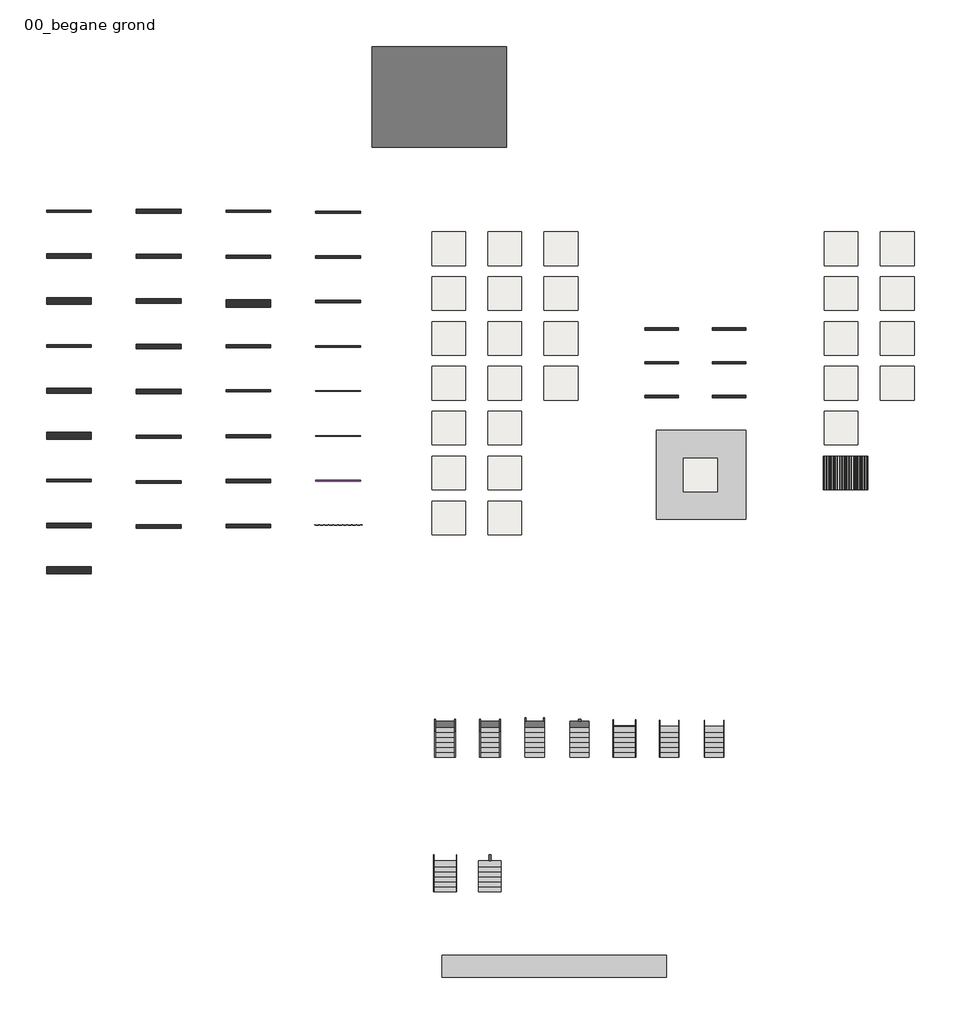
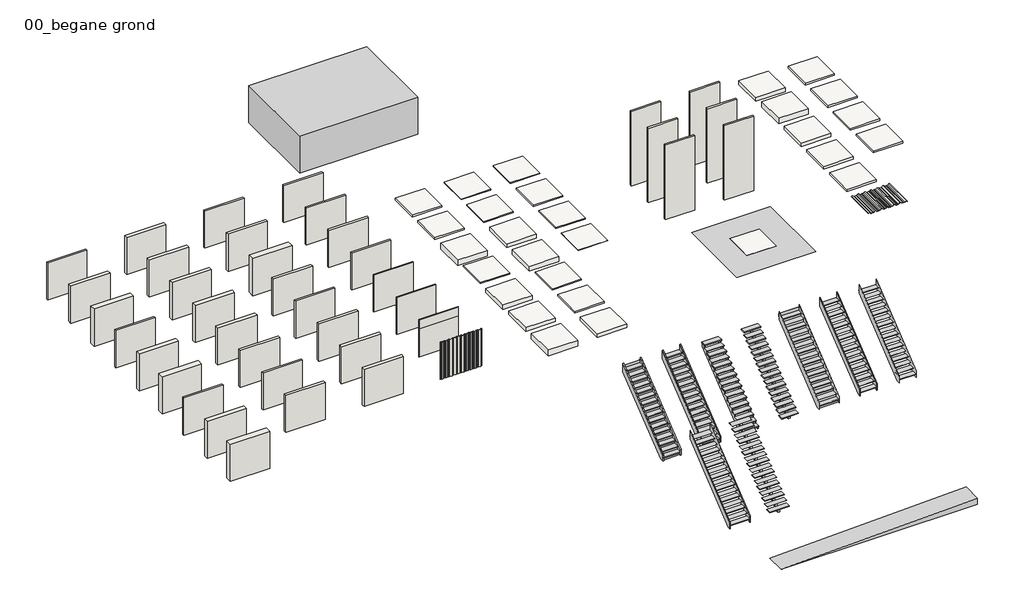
# One storey, incomplete: 40 walls, 19 slabs, 18 stairs, 10 roofs, 2 proxies, 1 ramp.
"""IFC4 building model written with IfcOpenShell, lengths in millimetres."""

from ifc_helpers import new_model, si_unit, frame, origin, origin_with_axes, place, context, project, spatial, polyline, outline, extrude, triangles, transform, mapped, element, save
from components import proxy_00_mass_bestaand_00_mass_bestaand_229168_00_mass_12fab161, ramp_c5d2febd, roof_46c57be1, roof_4d8e4188, roof_0605da9c, roof_7d214786, roof_24a27b46, roof_65e7706b, roof_e8020cba, roof_e9c2aae1, basic_roof_27_ro_generiek_200_69710_basic_roof_27_ro_0ecb0dcb, basic_roof_27_ro_generiek_300_69826_basic_roof_27_ro_fdb68229, assembled_stair_stair_68679_run_1_assembled_stair_stair_a77dc0a1, assembled_stair_stair_68679_stringer_1_assembled_stair_stair_632ac695, assembled_stair_stair_68953_run_1_assembled_stair_stair_38e74e66, assembled_stair_stair_68953_stringer_1_assembled_stair_stair_a13841a0, assembled_stair_stair_69257_run_1_assembled_stair_stair_86e8642f, assembled_stair_stair_69257_stringer_1_assembled_stair_stair_c2634700, assembled_stair_stair_69261_run_1_assembled_stair_stair_f02f855f, assembled_stair_stair_69261_stringer_1_assembled_stair_stair_a59cbee6, assembled_stair_stair_69280_run_1_assembled_stair_stair_6d8b1960, assembled_stair_stair_69280_stringer_1_assembled_stair_stair_a96893dd, assembled_stair_stair_69283_run_1_assembled_stair_stair_51359e1c, assembled_stair_stair_69283_stringer_1_assembled_stair_stair_75dc44a6, assembled_stair_stair_69288_run_1_assembled_stair_stair_d5ccb160, assembled_stair_stair_69288_stringer_1_assembled_stair_stair_aace1262, assembled_stair_stair_69305_run_1_assembled_stair_stair_07b85a14, assembled_stair_stair_69305_stringer_1_assembled_stair_stair_98d96019, assembled_stair_stair_69309_run_1_assembled_stair_stair_6317ac3c, assembled_stair_stair_69309_stringer_1_assembled_stair_stair_9f351917, wall_cce2b666

model = new_model("IFC4")

# Units and contexts
model_context = context("Model", 3, world=origin())
ifc_project = project(units=[si_unit("LENGTHUNIT", "METRE", prefix="MILLI")], contexts=[model_context])

# Site, building, storey
site = spatial("IfcSite", under=ifc_project)
building = spatial("IfcBuilding", under=site)
storey = spatial("IfcBuildingStorey", under=building, Name="00_begane grond", Elevation=0.0)

# Proxies
placement = place(None, origin())
element("IfcBuildingElementProxy", 1, Name="Building Element Proxy", at=placement, inside=storey, context=model_context, shape_type="Tessellation", body=[
    triangles([(27193.3471252, -14734.9994293, 0.0), (27193.3471252, -10755.0005035, 0.0), (31193.3471558, -10755.0005035, 0.0), (31193.3471558, -14734.9994293, 0.0), (28413.3470764, -13494.9995361, 0.0), (29913.3485413, -13494.9995361, 0.0), (29913.3485413, -13461.4004242, 0.0), (29913.3485413, -11995.0003967, 0.0), (28439.5780334, -11995.0003967, 0.0), (28413.3470764, -11995.0003967, 0.0)], [[1, 5, 2], [5, 1, 6], [2, 10, 9], [10, 2, 5], [9, 10, 5], [2, 9, 8], [5, 7, 9], [6, 4, 7], [4, 6, 1], [7, 3, 8], [3, 7, 4], [8, 3, 2], [7, 8, 9], [6, 7, 5]], closed=False),
])
proxy_00_mass_bestaand_00_mass_bestaand_229168_00_mass_shape = proxy_00_mass_bestaand_00_mass_bestaand_229168_00_mass_12fab161(model_context)
element("IfcBuildingElementProxy", 2, Name="00_Mass_bestaand:00_Mass_bestaand:229168 : 00_Mass_bestaand:00_Mass_bestaand:229168", ObjectType="00_Mass_bestaand:00_Mass_bestaand:229168 : 00_Mass_bestaand:00_Mass_bestaand:229168", at=placement, inside=storey, context=model_context, shape_type="MappedRepresentation", body=[
    mapped(proxy_00_mass_bestaand_00_mass_bestaand_229168_00_mass_shape, transform((0.0, 0.0, 0.0), x_axis=(1.0, 0.0, 0.0), y_axis=(0.0, 1.0, 0.0), z_axis=(0.0, 0.0, 1.0))),
])

# Ramp
ramp_shape = ramp_c5d2febd(model_context)
element("IfcRamp", 3, ObjectType="Ramp:24_RA_hellingbaan_beton_prefab_solid:79050:1 : Ramp:24_RA_hellingbaan_beton_prefab_solid:79050:1", at=placement, inside=storey, context=model_context, shape_type="MappedRepresentation", body=[
    mapped(ramp_shape, transform((0.0, 0.0, 0.0), x_axis=(1.0, 0.0, 0.0), y_axis=(0.0, 1.0, 0.0), z_axis=(0.0, 0.0, 1.0))),
])

# Roofs
roof_shape = roof_46c57be1(model_context)
element("IfcRoof", 4, ObjectType="Basic Roof:47_RO_isolatie_PIR_bitumen_82_80-2:69885 : Basic Roof:47_RO_isolatie_PIR_bitumen_82_80-2:69885", at=placement, inside=storey, context=model_context, shape_type="MappedRepresentation", body=[
    mapped(roof_shape, transform((0.0, 0.0, 0.0), x_axis=(1.0, 0.0, 0.0), y_axis=(0.0, 1.0, 0.0), z_axis=(0.0, 0.0, 1.0))),
])
roof_2_shape = roof_4d8e4188(model_context)
element("IfcRoof", 5, ObjectType="Basic Roof:47_RO_isolatie_EPS_bitumen_102_100-2:69892 : Basic Roof:47_RO_isolatie_EPS_bitumen_102_100-2:69892", at=placement, inside=storey, context=model_context, shape_type="MappedRepresentation", body=[
    mapped(roof_2_shape, transform((0.0, 0.0, 0.0), x_axis=(1.0, 0.0, 0.0), y_axis=(0.0, 1.0, 0.0), z_axis=(0.0, 0.0, 1.0))),
])
roof_3_shape = roof_0605da9c(model_context)
element("IfcRoof", 6, ObjectType="Basic Roof:27_RO_hout_underlayment_189_171-18:69921 : Basic Roof:27_RO_hout_underlayment_189_171-18:69921", at=placement, inside=storey, context=model_context, shape_type="MappedRepresentation", body=[
    mapped(roof_3_shape, transform((0.0, 0.0, 0.0), x_axis=(1.0, 0.0, 0.0), y_axis=(0.0, 1.0, 0.0), z_axis=(0.0, 0.0, 1.0))),
])
roof_4_shape = roof_7d214786(model_context)
element("IfcRoof", 7, ObjectType="Basic Roof:27_RO_dakplaat_enkelschalig_PIR_135_33-90-12:69928 : Basic Roof:27_RO_dakplaat_enkelschalig_PIR_135_33-90-12:69928", at=placement, inside=storey, context=model_context, shape_type="MappedRepresentation", body=[
    mapped(roof_4_shape, transform((0.0, 0.0, 0.0), x_axis=(1.0, 0.0, 0.0), y_axis=(0.0, 1.0, 0.0), z_axis=(0.0, 0.0, 1.0))),
])
roof_5_shape = roof_24a27b46(model_context)
element("IfcRoof", 8, ObjectType="Basic Roof:47_RO_dakpan_grijs_300x300:69939 : Basic Roof:47_RO_dakpan_grijs_300x300:69939", at=placement, inside=storey, context=model_context, shape_type="MappedRepresentation", body=[
    mapped(roof_5_shape, transform((0.0, 0.0, 0.0), x_axis=(1.0, 0.0, 0.0), y_axis=(0.0, 1.0, 0.0), z_axis=(0.0, 0.0, 1.0))),
])
roof_6_shape = roof_65e7706b(model_context)
element("IfcRoof", 9, ObjectType="Basic Roof:47_RO_dakpan_rood_300x300:69946 : Basic Roof:47_RO_dakpan_rood_300x300:69946", at=placement, inside=storey, context=model_context, shape_type="MappedRepresentation", body=[
    mapped(roof_6_shape, transform((0.0, 0.0, 0.0), x_axis=(1.0, 0.0, 0.0), y_axis=(0.0, 1.0, 0.0), z_axis=(0.0, 0.0, 1.0))),
])
roof_7_shape = roof_e8020cba(model_context)
element("IfcRoof", 10, ObjectType="Basic Roof:27_RO_dakplaat_sandwich_PIR_106_20-3-80-3:77055 : Basic Roof:27_RO_dakplaat_sandwich_PIR_106_20-3-80-3:77055", at=placement, inside=storey, context=model_context, shape_type="MappedRepresentation", body=[
    mapped(roof_7_shape, transform((0.0, 0.0, 0.0), x_axis=(1.0, 0.0, 0.0), y_axis=(0.0, 1.0, 0.0), z_axis=(0.0, 0.0, 1.0))),
])
roof_8_shape = roof_e9c2aae1(model_context)
element("IfcRoof", 11, ObjectType="27_CWP_SAB58KD_945:SAB58KD_945:165322 : 27_CWP_SAB58KD_945:SAB58KD_945:165322", at=placement, inside=storey, context=model_context, shape_type="MappedRepresentation", body=[
    mapped(roof_8_shape, transform((0.0, 0.0, 0.0), x_axis=(1.0, 0.0, 0.0), y_axis=(0.0, 1.0, 0.0), z_axis=(0.0, 0.0, 1.0))),
])
basic_roof_27_ro_generiek_200_69710_basic_roof_27_ro_shape = basic_roof_27_ro_generiek_200_69710_basic_roof_27_ro_0ecb0dcb(model_context)
element("IfcRoof", 12, ObjectType="Basic Roof:27_RO_generiek_200:69710 : Basic Roof:27_RO_generiek_200:69710", at=placement, inside=storey, context=model_context, shape_type="MappedRepresentation", body=[
    mapped(basic_roof_27_ro_generiek_200_69710_basic_roof_27_ro_shape, transform((0.0, 0.0, 0.0), x_axis=(1.0, 0.0, 0.0), y_axis=(0.0, 1.0, 0.0), z_axis=(0.0, 0.0, 1.0))),
])
basic_roof_27_ro_generiek_300_69826_basic_roof_27_ro_shape = basic_roof_27_ro_generiek_300_69826_basic_roof_27_ro_fdb68229(model_context)
element("IfcRoof", 13, ObjectType="Basic Roof:27_RO_generiek_300:69826 : Basic Roof:27_RO_generiek_300:69826", at=placement, inside=storey, context=model_context, shape_type="MappedRepresentation", body=[
    mapped(basic_roof_27_ro_generiek_300_69826_basic_roof_27_ro_shape, transform((0.0, 0.0, 0.0), x_axis=(1.0, 0.0, 0.0), y_axis=(0.0, 1.0, 0.0), z_axis=(0.0, 0.0, 1.0))),
])

# Slabs
element("IfcSlab", 14, ObjectType="Floor:11_FL_werkvloer_stampbeton_50", at=placement, inside=storey, context=model_context, shape_type="SweptSolid", body=[
    extrude(outline(polyline([(17193.347385, -7915.0), (18693.347385, -7915.0), (18693.347385, -9415.0), (17193.347385, -9415.0), (17193.347385, -7915.0)])), frame((0.0, 0.0, -50.0), z_axis=(0.0, 0.0, 1.0), x_axis=(1.0, 0.0, 0.0)), (0.0, 0.0, 1.0), 50.0),
])
element("IfcSlab", 15, ObjectType="Floor:13_FL_ihwg_beton_geïsoleerd_222_120-100-2", at=placement, inside=storey, context=model_context, shape_type="SweptSolid", body=[
    extrude(outline(polyline([(17193.347385, -9915.0), (18693.347385, -9915.0), (18693.347385, -11415.0), (17193.347385, -11415.0), (17193.347385, -9915.0)])), frame((0.0, 0.0, -222.0), z_axis=(0.0, 0.0, 1.0), x_axis=(1.0, 0.0, 0.0)), (0.0, 0.0, 1.0), 222.0),
])
element("IfcSlab", 16, ObjectType="Floor:23_FL_breedplaat_50", at=placement, inside=storey, context=model_context, shape_type="SweptSolid", body=[
    extrude(outline(polyline([(19693.347385, -1915.0), (21193.347385, -1915.0), (21193.347385, -3415.0), (19693.347385, -3415.0), (19693.347385, -1915.0)])), frame((0.0, 0.0, -50.0), z_axis=(0.0, 0.0, 1.0), x_axis=(1.0, 0.0, 0.0)), (0.0, 0.0, 1.0), 50.0),
])
element("IfcSlab", 17, ObjectType="Floor:23_FL_breedplaat_60", at=placement, inside=storey, context=model_context, shape_type="SweptSolid", body=[
    extrude(outline(polyline([(19693.347385, -3915.0), (21193.347385, -3915.0), (21193.347385, -5415.0), (19693.347385, -5415.0), (19693.347385, -3915.0)])), frame((0.0, 0.0, -60.0), z_axis=(0.0, 0.0, 1.0), x_axis=(1.0, 0.0, 0.0)), (0.0, 0.0, 1.0), 60.0),
])
element("IfcSlab", 18, ObjectType="Floor:23_FL_zwaluwstaartvloer_ihwg_beton_50", at=placement, inside=storey, context=model_context, shape_type="SweptSolid", body=[
    extrude(outline(polyline([(19693.347385, -9915.0), (21193.347385, -9915.0), (21193.347385, -11415.0), (19693.347385, -11415.0), (19693.347385, -9915.0)])), frame((0.0, 0.0, -50.0), z_axis=(0.0, 0.0, 1.0), x_axis=(1.0, 0.0, 0.0)), (0.0, 0.0, 1.0), 50.0),
])
element("IfcSlab", 19, ObjectType="Floor:23_FL_zwaluwstaartvloer_ihwg_beton_75", at=placement, inside=storey, context=model_context, shape_type="SweptSolid", body=[
    extrude(outline(polyline([(19693.347385, -11915.0), (21193.347385, -11915.0), (21193.347385, -13415.0), (19693.347385, -13415.0), (19693.347385, -11915.0)])), frame((0.0, 0.0, -75.0), z_axis=(0.0, 0.0, 1.0), x_axis=(1.0, 0.0, 0.0)), (0.0, 0.0, 1.0), 75.0),
])
element("IfcSlab", 20, ObjectType="Floor:43_FL_cementdekvloer_50", at=placement, inside=storey, context=model_context, shape_type="SweptSolid", body=[
    extrude(outline(polyline([(22193.347385, -1915.0), (23693.347385, -1915.0), (23693.347385, -3415.0), (22193.347385, -3415.0), (22193.347385, -1915.0)])), frame((0.0, 0.0, -50.0), z_axis=(0.0, 0.0, 1.0), x_axis=(1.0, 0.0, 0.0)), (0.0, 0.0, 1.0), 50.0),
])
element("IfcSlab", 21, ObjectType="Floor:43_FL_cementdekvloer_70", at=placement, inside=storey, context=model_context, shape_type="SweptSolid", body=[
    extrude(outline(polyline([(22193.347385, -3915.0), (23693.347385, -3915.0), (23693.347385, -5415.0), (22193.347385, -5415.0), (22193.347385, -3915.0)])), frame((0.0, 0.0, -70.0), z_axis=(0.0, 0.0, 1.0), x_axis=(1.0, 0.0, 0.0)), (0.0, 0.0, 1.0), 70.0),
])
element("IfcSlab", 22, ObjectType="Floor:43_FL_eiken_planken 150_geluidsisolatie_52_22-30", at=placement, inside=storey, context=model_context, shape_type="SweptSolid", body=[
    extrude(outline(polyline([(22193.347385, -5915.0), (23693.347385, -5915.0), (23693.347385, -7415.0), (22193.347385, -7415.0), (22193.347385, -5915.0)])), frame((0.0, 0.0, -52.0), z_axis=(0.0, 0.0, 1.0), x_axis=(1.0, 0.0, 0.0)), (0.0, 0.0, 1.0), 52.0),
])
element("IfcSlab", 23, ObjectType="Floor:43_FL_tapijt_rood", at=placement, inside=storey, context=model_context, shape_type="SweptSolid", body=[
    extrude(outline(polyline([(22193.347385, -7915.0), (23693.347385, -7915.0), (23693.347385, -9415.0), (22193.347385, -9415.0), (22193.347385, -7915.0)])), frame((0.0, 0.0, -9.0), z_axis=(0.0, 0.0, 1.0), x_axis=(1.0, 0.0, 0.0)), (0.0, 0.0, 1.0), 9.0),
])
element("IfcSlab", 24, ObjectType="Floor:13_FL_generiek_100", at=placement, inside=storey, context=model_context, shape_type="SweptSolid", body=[
    extrude(outline(polyline([(17193.347385, -1915.0), (18693.347385, -1915.0), (18693.347385, -3415.0), (17193.347385, -3415.0), (17193.347385, -1915.0)])), frame((0.0, 0.0, -100.0), z_axis=(0.0, 0.0, 1.0), x_axis=(1.0, 0.0, 0.0)), (0.0, 0.0, 1.0), 100.0),
])
element("IfcSlab", 25, ObjectType="Floor:23_FL_generiek_100", at=placement, inside=storey, context=model_context, shape_type="SweptSolid", body=[
    extrude(outline(polyline([(17193.347385, -3915.0), (18693.347385, -3915.0), (18693.347385, -5415.0), (17193.347385, -5415.0), (17193.347385, -3915.0)])), frame((0.0, 0.0, -100.0), z_axis=(0.0, 0.0, 1.0), x_axis=(1.0, 0.0, 0.0)), (0.0, 0.0, 1.0), 100.0),
])
element("IfcSlab", 26, ObjectType="Floor:23_FL_generiek_300", at=placement, inside=storey, context=model_context, shape_type="SweptSolid", body=[
    extrude(outline(polyline([(17193.347385, -5915.0), (18693.347385, -5915.0), (18693.347385, -7415.0), (17193.347385, -7415.0), (17193.347385, -5915.0)])), frame((0.0, 0.0, -300.0), z_axis=(0.0, 0.0, 1.0), x_axis=(1.0, 0.0, 0.0)), (0.0, 0.0, 1.0), 300.0),
])
element("IfcSlab", 27, ObjectType="Floor:23_FL_hout_underlayment_189mm_171-18", at=placement, inside=storey, context=model_context, shape_type="SweptSolid", body=[
    extrude(outline(polyline([(19693.347385, -13915.0), (21193.347385, -13915.0), (21193.347385, -15415.0), (19693.347385, -15415.0), (19693.347385, -13915.0)])), frame((0.0, 0.0, -189.0), z_axis=(0.0, 0.0, 1.0), x_axis=(1.0, 0.0, 0.0)), (0.0, 0.0, 1.0), 189.0),
])
element("IfcSlab", 28, ObjectType="Floor:23_FL_ihwg_beton_200", at=placement, inside=storey, context=model_context, shape_type="SweptSolid", body=[
    extrude(outline(polyline([(17193.347385, -11915.0), (18693.347385, -11915.0), (18693.347385, -13415.0), (17193.347385, -13415.0), (17193.347385, -11915.0)])), frame((0.0, 0.0, -200.0), z_axis=(0.0, 0.0, 1.0), x_axis=(1.0, 0.0, 0.0)), (0.0, 0.0, 1.0), 200.0),
])
element("IfcSlab", 29, ObjectType="Floor:23_FL_ihwg_beton_300", at=placement, inside=storey, context=model_context, shape_type="SweptSolid", body=[
    extrude(outline(polyline([(17193.347385, -13915.0), (18693.347385, -13915.0), (18693.347385, -15415.0), (17193.347385, -15415.0), (17193.347385, -13915.0)])), frame((0.0, 0.0, -300.0), z_axis=(0.0, 0.0, 1.0), x_axis=(1.0, 0.0, 0.0)), (0.0, 0.0, 1.0), 300.0),
])
element("IfcSlab", 30, ObjectType="Floor:23_FL_kanaalplaat_200", at=placement, inside=storey, context=model_context, shape_type="SweptSolid", body=[
    extrude(outline(polyline([(19693.347385, -5915.0), (21193.347385, -5915.0), (21193.347385, -7415.0), (19693.347385, -7415.0), (19693.347385, -5915.0)])), frame((0.0, 0.0, -200.0), z_axis=(0.0, 0.0, 1.0), x_axis=(1.0, 0.0, 0.0)), (0.0, 0.0, 1.0), 200.0),
])
element("IfcSlab", 31, ObjectType="Floor:23_FL_kanaalplaat_260", at=placement, inside=storey, context=model_context, shape_type="SweptSolid", body=[
    extrude(outline(polyline([(19693.347385, -7915.0), (21193.347385, -7915.0), (21193.347385, -9415.0), (19693.347385, -9415.0), (19693.347385, -7915.0)])), frame((0.0, 0.0, -260.0), z_axis=(0.0, 0.0, 1.0), x_axis=(1.0, 0.0, 0.0)), (0.0, 0.0, 1.0), 260.0),
])
element("IfcSlab", 32, ObjectType="Pad:90_SITE_bouwplaats", at=placement, inside=storey, context=model_context, shape_type="SweptSolid", body=[
    extrude(outline(polyline([(28413.347385, -13495.0), (28413.347385, -11995.0), (29913.347385, -11995.0), (29913.347385, -13495.0), (28413.347385, -13495.0)])), frame((0.0, 0.0, -300.0), z_axis=(0.0, 0.0, 1.0), x_axis=(1.0, 0.0, 0.0)), (0.0, 0.0, 1.0), 300.0),
])

# Stairs
assembled_stair_stair_68679_run_1_assembled_stair_stair_shape = assembled_stair_stair_68679_run_1_assembled_stair_stair_a77dc0a1(model_context)
element("IfcStair", 33, ObjectType="Assembled Stair:Stair:68679 Run 1 : Assembled Stair:Stair:68679 Run 1", at=placement, inside=storey, context=model_context, shape_type="MappedRepresentation", body=[
    mapped(assembled_stair_stair_68679_run_1_assembled_stair_stair_shape, transform((0.0, 0.0, 0.0), x_axis=(1.0, 0.0, 0.0), y_axis=(0.0, 1.0, 0.0), z_axis=(0.0, 0.0, 1.0))),
])
assembled_stair_stair_68679_stringer_1_assembled_stair_stair_shape = assembled_stair_stair_68679_stringer_1_assembled_stair_stair_632ac695(model_context)
element("IfcStair", 34, ObjectType="Assembled Stair:Stair:68679 Stringer 1 : Assembled Stair:Stair:68679 Stringer 1", at=placement, inside=storey, context=model_context, shape_type="MappedRepresentation", body=[
    mapped(assembled_stair_stair_68679_stringer_1_assembled_stair_stair_shape, transform((0.0, 0.0, 0.0), x_axis=(1.0, 0.0, 0.0), y_axis=(0.0, 1.0, 0.0), z_axis=(0.0, 0.0, 1.0))),
])
assembled_stair_stair_68953_run_1_assembled_stair_stair_shape = assembled_stair_stair_68953_run_1_assembled_stair_stair_38e74e66(model_context)
element("IfcStair", 35, ObjectType="Assembled Stair:Stair:68953 Run 1 : Assembled Stair:Stair:68953 Run 1", at=placement, inside=storey, context=model_context, shape_type="MappedRepresentation", body=[
    mapped(assembled_stair_stair_68953_run_1_assembled_stair_stair_shape, transform((0.0, 0.0, 0.0), x_axis=(1.0, 0.0, 0.0), y_axis=(0.0, 1.0, 0.0), z_axis=(0.0, 0.0, 1.0))),
])
assembled_stair_stair_68953_stringer_1_assembled_stair_stair_shape = assembled_stair_stair_68953_stringer_1_assembled_stair_stair_a13841a0(model_context)
element("IfcStair", 36, ObjectType="Assembled Stair:Stair:68953 Stringer 1 : Assembled Stair:Stair:68953 Stringer 1", at=placement, inside=storey, context=model_context, shape_type="MappedRepresentation", body=[
    mapped(assembled_stair_stair_68953_stringer_1_assembled_stair_stair_shape, transform((0.0, 0.0, 0.0), x_axis=(1.0, 0.0, 0.0), y_axis=(0.0, 1.0, 0.0), z_axis=(0.0, 0.0, 1.0))),
])
assembled_stair_stair_69257_run_1_assembled_stair_stair_shape = assembled_stair_stair_69257_run_1_assembled_stair_stair_86e8642f(model_context)
element("IfcStair", 37, ObjectType="Assembled Stair:Stair:69257 Run 1 : Assembled Stair:Stair:69257 Run 1", at=placement, inside=storey, context=model_context, shape_type="MappedRepresentation", body=[
    mapped(assembled_stair_stair_69257_run_1_assembled_stair_stair_shape, transform((0.0, 0.0, 0.0), x_axis=(1.0, 0.0, 0.0), y_axis=(0.0, 1.0, 0.0), z_axis=(0.0, 0.0, 1.0))),
])
assembled_stair_stair_69257_stringer_1_assembled_stair_stair_shape = assembled_stair_stair_69257_stringer_1_assembled_stair_stair_c2634700(model_context)
element("IfcStair", 38, ObjectType="Assembled Stair:Stair:69257 Stringer 1 : Assembled Stair:Stair:69257 Stringer 1", at=placement, inside=storey, context=model_context, shape_type="MappedRepresentation", body=[
    mapped(assembled_stair_stair_69257_stringer_1_assembled_stair_stair_shape, transform((0.0, 0.0, 0.0), x_axis=(1.0, 0.0, 0.0), y_axis=(0.0, 1.0, 0.0), z_axis=(0.0, 0.0, 1.0))),
])
assembled_stair_stair_69261_run_1_assembled_stair_stair_shape = assembled_stair_stair_69261_run_1_assembled_stair_stair_f02f855f(model_context)
element("IfcStair", 39, ObjectType="Assembled Stair:Stair:69261 Run 1 : Assembled Stair:Stair:69261 Run 1", at=placement, inside=storey, context=model_context, shape_type="MappedRepresentation", body=[
    mapped(assembled_stair_stair_69261_run_1_assembled_stair_stair_shape, transform((0.0, 0.0, 0.0), x_axis=(1.0, 0.0, 0.0), y_axis=(0.0, 1.0, 0.0), z_axis=(0.0, 0.0, 1.0))),
])
assembled_stair_stair_69261_stringer_1_assembled_stair_stair_shape = assembled_stair_stair_69261_stringer_1_assembled_stair_stair_a59cbee6(model_context)
element("IfcStair", 40, ObjectType="Assembled Stair:Stair:69261 Stringer 1 : Assembled Stair:Stair:69261 Stringer 1", at=placement, inside=storey, context=model_context, shape_type="MappedRepresentation", body=[
    mapped(assembled_stair_stair_69261_stringer_1_assembled_stair_stair_shape, transform((0.0, 0.0, 0.0), x_axis=(1.0, 0.0, 0.0), y_axis=(0.0, 1.0, 0.0), z_axis=(0.0, 0.0, 1.0))),
])
assembled_stair_stair_69280_run_1_assembled_stair_stair_shape = assembled_stair_stair_69280_run_1_assembled_stair_stair_6d8b1960(model_context)
element("IfcStair", 41, ObjectType="Assembled Stair:Stair:69280 Run 1 : Assembled Stair:Stair:69280 Run 1", at=placement, inside=storey, context=model_context, shape_type="MappedRepresentation", body=[
    mapped(assembled_stair_stair_69280_run_1_assembled_stair_stair_shape, transform((0.0, 0.0, 0.0), x_axis=(1.0, 0.0, 0.0), y_axis=(0.0, 1.0, 0.0), z_axis=(0.0, 0.0, 1.0))),
])
assembled_stair_stair_69280_stringer_1_assembled_stair_stair_shape = assembled_stair_stair_69280_stringer_1_assembled_stair_stair_a96893dd(model_context)
element("IfcStair", 42, ObjectType="Assembled Stair:Stair:69280 Stringer 1 : Assembled Stair:Stair:69280 Stringer 1", at=placement, inside=storey, context=model_context, shape_type="MappedRepresentation", body=[
    mapped(assembled_stair_stair_69280_stringer_1_assembled_stair_stair_shape, transform((0.0, 0.0, 0.0), x_axis=(1.0, 0.0, 0.0), y_axis=(0.0, 1.0, 0.0), z_axis=(0.0, 0.0, 1.0))),
])
assembled_stair_stair_69283_run_1_assembled_stair_stair_shape = assembled_stair_stair_69283_run_1_assembled_stair_stair_51359e1c(model_context)
element("IfcStair", 43, ObjectType="Assembled Stair:Stair:69283 Run 1 : Assembled Stair:Stair:69283 Run 1", at=placement, inside=storey, context=model_context, shape_type="MappedRepresentation", body=[
    mapped(assembled_stair_stair_69283_run_1_assembled_stair_stair_shape, transform((0.0, 0.0, 0.0), x_axis=(1.0, 0.0, 0.0), y_axis=(0.0, 1.0, 0.0), z_axis=(0.0, 0.0, 1.0))),
])
assembled_stair_stair_69283_stringer_1_assembled_stair_stair_shape = assembled_stair_stair_69283_stringer_1_assembled_stair_stair_75dc44a6(model_context)
element("IfcStair", 44, ObjectType="Assembled Stair:Stair:69283 Stringer 1 : Assembled Stair:Stair:69283 Stringer 1", at=placement, inside=storey, context=model_context, shape_type="MappedRepresentation", body=[
    mapped(assembled_stair_stair_69283_stringer_1_assembled_stair_stair_shape, transform((0.0, 0.0, 0.0), x_axis=(1.0, 0.0, 0.0), y_axis=(0.0, 1.0, 0.0), z_axis=(0.0, 0.0, 1.0))),
])
assembled_stair_stair_69288_run_1_assembled_stair_stair_shape = assembled_stair_stair_69288_run_1_assembled_stair_stair_d5ccb160(model_context)
element("IfcStair", 45, ObjectType="Assembled Stair:Stair:69288 Run 1 : Assembled Stair:Stair:69288 Run 1", at=placement, inside=storey, context=model_context, shape_type="MappedRepresentation", body=[
    mapped(assembled_stair_stair_69288_run_1_assembled_stair_stair_shape, transform((0.0, 0.0, 0.0), x_axis=(1.0, 0.0, 0.0), y_axis=(0.0, 1.0, 0.0), z_axis=(0.0, 0.0, 1.0))),
])
assembled_stair_stair_69288_stringer_1_assembled_stair_stair_shape = assembled_stair_stair_69288_stringer_1_assembled_stair_stair_aace1262(model_context)
element("IfcStair", 46, ObjectType="Assembled Stair:Stair:69288 Stringer 1 : Assembled Stair:Stair:69288 Stringer 1", at=placement, inside=storey, context=model_context, shape_type="MappedRepresentation", body=[
    mapped(assembled_stair_stair_69288_stringer_1_assembled_stair_stair_shape, transform((0.0, 0.0, 0.0), x_axis=(1.0, 0.0, 0.0), y_axis=(0.0, 1.0, 0.0), z_axis=(0.0, 0.0, 1.0))),
])
assembled_stair_stair_69305_run_1_assembled_stair_stair_shape = assembled_stair_stair_69305_run_1_assembled_stair_stair_07b85a14(model_context)
element("IfcStair", 47, ObjectType="Assembled Stair:Stair:69305 Run 1 : Assembled Stair:Stair:69305 Run 1", at=placement, inside=storey, context=model_context, shape_type="MappedRepresentation", body=[
    mapped(assembled_stair_stair_69305_run_1_assembled_stair_stair_shape, transform((0.0, 0.0, 0.0), x_axis=(1.0, 0.0, 0.0), y_axis=(0.0, 1.0, 0.0), z_axis=(0.0, 0.0, 1.0))),
])
assembled_stair_stair_69305_stringer_1_assembled_stair_stair_shape = assembled_stair_stair_69305_stringer_1_assembled_stair_stair_98d96019(model_context)
element("IfcStair", 48, ObjectType="Assembled Stair:Stair:69305 Stringer 1 : Assembled Stair:Stair:69305 Stringer 1", at=placement, inside=storey, context=model_context, shape_type="MappedRepresentation", body=[
    mapped(assembled_stair_stair_69305_stringer_1_assembled_stair_stair_shape, transform((0.0, 0.0, 0.0), x_axis=(1.0, 0.0, 0.0), y_axis=(0.0, 1.0, 0.0), z_axis=(0.0, 0.0, 1.0))),
])
assembled_stair_stair_69309_run_1_assembled_stair_stair_shape = assembled_stair_stair_69309_run_1_assembled_stair_stair_6317ac3c(model_context)
element("IfcStair", 49, ObjectType="Assembled Stair:Stair:69309 Run 1 : Assembled Stair:Stair:69309 Run 1", at=placement, inside=storey, context=model_context, shape_type="MappedRepresentation", body=[
    mapped(assembled_stair_stair_69309_run_1_assembled_stair_stair_shape, transform((0.0, 0.0, 0.0), x_axis=(1.0, 0.0, 0.0), y_axis=(0.0, 1.0, 0.0), z_axis=(0.0, 0.0, 1.0))),
])
assembled_stair_stair_69309_stringer_1_assembled_stair_stair_shape = assembled_stair_stair_69309_stringer_1_assembled_stair_stair_9f351917(model_context)
element("IfcStair", 50, ObjectType="Assembled Stair:Stair:69309 Stringer 1 : Assembled Stair:Stair:69309 Stringer 1", at=placement, inside=storey, context=model_context, shape_type="MappedRepresentation", body=[
    mapped(assembled_stair_stair_69309_stringer_1_assembled_stair_stair_shape, transform((0.0, 0.0, 0.0), x_axis=(1.0, 0.0, 0.0), y_axis=(0.0, 1.0, 0.0), z_axis=(0.0, 0.0, 1.0))),
])

# Walls
element("IfcWall", 51, ObjectType="Basic Wall:21_WA_mw_100", at=placement, inside=storey, context=model_context, shape_type="SweptSolid", body=[
    extrude(outline(polyline([(2000.0, -13050.0), (0.0, -13050.0), (0.0, -12950.0), (2000.0, -12950.0), (2000.0, -13050.0)])), origin_with_axes(), (0.0, 0.0, 1.0), 2000.0),
])
element("IfcWall", 52, ObjectType="Basic Wall:21_WA_mw_210", at=placement, inside=storey, context=model_context, shape_type="SweptSolid", body=[
    extrude(outline(polyline([(2000.0, -15105.0), (0.0, -15105.0), (0.0, -14895.0), (2000.0, -14895.0), (2000.0, -15105.0)])), origin_with_axes(), (0.0, 0.0, 1.0), 2000.0),
])
element("IfcWall", 53, ObjectType="Basic Wall:21_WA_mw_spouw_mw_300_100-100-100", at=placement, inside=storey, context=model_context, shape_type="SweptSolid", body=[
    extrude(outline(polyline([(2000.0, -17150.0), (0.0, -17150.0), (0.0, -16850.0), (2000.0, -16850.0), (2000.0, -17150.0)])), origin_with_axes(), (0.0, 0.0, 1.0), 2000.0),
])
element("IfcWall", 54, ObjectType="Basic Wall:21_WA_mw-bestaand_100", at=placement, inside=storey, context=model_context, shape_type="SweptSolid", body=[
    extrude(outline(polyline([(2000.0, -7050.0), (0.0, -7050.0), (0.0, -6950.0), (2000.0, -6950.0), (2000.0, -7050.0)])), origin_with_axes(), (0.0, 0.0, 1.0), 2000.0),
])
element("IfcWall", 55, ObjectType="Basic Wall:21_WA_mw_bestaand_210", at=placement, inside=storey, context=model_context, shape_type="SweptSolid", body=[
    extrude(outline(polyline([(2000.0, -9105.0), (0.0, -9105.0), (0.0, -8895.0), (2000.0, -8895.0), (2000.0, -9105.0)])), origin_with_axes(), (0.0, 0.0, 1.0), 2000.0),
])
element("IfcWall", 56, ObjectType="Basic Wall:21_WA_mw-bestaand_spouw_mw-bestaand_300_100-100-100", at=placement, inside=storey, context=model_context, shape_type="SweptSolid", body=[
    extrude(outline(polyline([(2000.0, -11150.0), (0.0, -11150.0), (0.0, -10850.0), (2000.0, -10850.0), (2000.0, -11150.0)])), origin_with_axes(), (0.0, 0.0, 1.0), 2000.0),
])
element("IfcWall", 57, ObjectType="Basic Wall:21_WA_mw_spouw_170_100-70", at=placement, inside=storey, context=model_context, shape_type="SweptSolid", body=[
    extrude(outline(polyline([(6000.0, -1085.0), (4000.0, -1085.0), (4000.0, -915.0), (6000.0, -915.0), (6000.0, -1085.0)])), origin_with_axes(), (0.0, 0.0, 1.0), 2000.0),
])
element("IfcWall", 58, ObjectType="Basic Wall:21_WA_mw_spouw_iso-sw_170_100-20-50", at=placement, inside=storey, context=model_context, shape_type="SweptSolid", body=[
    extrude(outline(polyline([(6000.0, -3085.0), (4000.0, -3085.0), (4000.0, -2915.0), (6000.0, -2915.0), (6000.0, -3085.0)])), origin_with_axes(), (0.0, 0.0, 1.0), 2000.0),
])
element("IfcWall", 59, ObjectType="Basic Wall:21_WA_mw_spouw_iso-sw_200_100-30-70", at=placement, inside=storey, context=model_context, shape_type="SweptSolid", body=[
    extrude(outline(polyline([(6000.0, -5100.0), (4000.0, -5100.0), (4000.0, -4900.0), (6000.0, -4900.0), (6000.0, -5100.0)])), origin_with_axes(), (0.0, 0.0, 1.0), 2000.0),
])
element("IfcWall", 60, ObjectType="Basic Wall:21_WA_mw_spouw_iso-sw_200_100-30-70", at=placement, inside=storey, context=model_context, shape_type="SweptSolid", body=[
    extrude(outline(polyline([(6000.0, -7120.0), (4000.0, -7120.0), (4000.0, -6920.0), (6000.0, -6920.0), (6000.0, -7120.0)])), origin_with_axes(), (0.0, 0.0, 1.0), 2000.0),
])
element("IfcWall", 61, ObjectType="Basic Wall:21_WA_hout-wrc-hor_rachel_tengel_iso-sw_180_20-30-10-120", at=placement, inside=storey, context=model_context, shape_type="SweptSolid", body=[
    extrude(outline(polyline([(6000.0, -9120.0), (4000.0, -9120.0), (4000.0, -8940.0), (6000.0, -8940.0), (6000.0, -9120.0)])), origin_with_axes(), (0.0, 0.0, 1.0), 2000.0),
])
element("IfcWall", 62, ObjectType="Basic Wall:28_WA_kzs_CS16_100", at=placement, inside=storey, context=model_context, shape_type="SweptSolid", body=[
    extrude(outline(polyline([(10000.0, -1050.0), (8000.0, -1050.0), (8000.0, -950.0), (10000.0, -950.0), (10000.0, -1050.0)])), origin_with_axes(), (0.0, 0.0, 1.0), 2000.0),
])
element("IfcWall", 63, ObjectType="Basic Wall:21_WA_sandwichpaneel_100x1000", at=placement, inside=storey, context=model_context, shape_type="SweptSolid", body=[
    extrude(outline(polyline([(6000.0, -13120.0), (4000.0, -13120.0), (4000.0, -13020.0), (6000.0, -13020.0), (6000.0, -13120.0)])), origin_with_axes(), (0.0, 0.0, 1.0), 2000.0),
])
element("IfcWall", 64, ObjectType="Basic Wall:28_WA_kzs_CS16_150", at=placement, inside=storey, context=model_context, shape_type="SweptSolid", body=[
    extrude(outline(polyline([(10000.0, -3100.0), (8000.0, -3100.0), (8000.0, -2950.0), (10000.0, -2950.0), (10000.0, -3100.0)])), origin_with_axes(), (0.0, 0.0, 1.0), 2000.0),
])
element("IfcWall", 65, ObjectType="Basic Wall:28_WA_kzs-CS16_spouw_kzs-C16_330_150-30-150", at=placement, inside=storey, context=model_context, shape_type="SweptSolid", body=[
    extrude(outline(polyline([(10000.0, -5280.0), (8000.0, -5280.0), (8000.0, -4950.0), (10000.0, -4950.0), (10000.0, -5280.0)])), origin_with_axes(), (0.0, 0.0, 1.0), 2000.0),
])
element("IfcWall", 66, ObjectType="Basic Wall:28_WA_cb_G4/600_100", at=placement, inside=storey, context=model_context, shape_type="SweptSolid", body=[
    extrude(outline(polyline([(10000.0, -9050.0), (8000.0, -9050.0), (8000.0, -8950.0), (10000.0, -8950.0), (10000.0, -9050.0)])), origin_with_axes(), (0.0, 0.0, 1.0), 2000.0),
])
element("IfcWall", 67, ObjectType="Basic Wall:28_WA_prefabb_C45_150", at=placement, inside=storey, context=model_context, shape_type="SweptSolid", body=[
    extrude(outline(polyline([(10000.0, -13100.0), (8000.0, -13100.0), (8000.0, -12950.0), (10000.0, -12950.0), (10000.0, -13100.0)])), origin_with_axes(), (0.0, 0.0, 1.0), 2000.0),
])
element("IfcWall", 68, ObjectType="Basic Wall:22_WA_kzs_CS12_100", at=placement, inside=storey, context=model_context, shape_type="SweptSolid", body=[
    extrude(outline(polyline([(14000.0, -1085.0), (12000.0, -1085.0), (12000.0, -985.0), (14000.0, -985.0), (14000.0, -1085.0)])), origin_with_axes(), (0.0, 0.0, 1.0), 2000.0),
])
element("IfcWall", 69, ObjectType="Basic Wall:22_WA_cb_G2/400_100", at=placement, inside=storey, context=model_context, shape_type="SweptSolid", body=[
    extrude(outline(polyline([(14000.0, -3085.0), (12000.0, -3085.0), (12000.0, -2985.0), (14000.0, -2985.0), (14000.0, -3085.0)])), origin_with_axes(), (0.0, 0.0, 1.0), 2000.0),
])
element("IfcWall", 70, ObjectType="Basic Wall:22_WA_ms-wand_gips_isolatie_gips_95_12.5-70-12.5", at=placement, inside=storey, context=model_context, shape_type="SweptSolid", body=[
    extrude(outline(polyline([(14000.0, -5067.5), (12000.0, -5067.5), (12000.0, -4972.5), (14000.0, -4972.5), (14000.0, -5067.5)])), origin_with_axes(), (0.0, 0.0, 1.0), 2000.0),
])
element("IfcWall", 71, ObjectType="Basic Wall:22_WA_glazen_bouwsteen_80", at=placement, inside=storey, context=model_context, shape_type="SweptSolid", body=[
    extrude(outline(polyline([(14000.0, -7065.0), (12000.0, -7065.0), (12000.0, -6985.0), (14000.0, -6985.0), (14000.0, -7065.0)])), origin_with_axes(), (0.0, 0.0, 1.0), 2000.0),
])
element("IfcWall", 72, ObjectType="Basic Wall:42_WA_tegelwerk_150x150x10mm_op cementmortel_wit", at=placement, inside=storey, context=model_context, shape_type="SweptSolid", body=[
    extrude(outline(polyline([(14000.0, -11027.5), (12000.0, -11027.5), (12000.0, -10997.5), (14000.0, -10997.5), (14000.0, -11027.5)])), origin_with_axes(), (0.0, 0.0, 1.0), 2000.0),
])
element("IfcWall", 73, ObjectType="Basic Wall:42_WA_tegelwerk_150x150x10mm_op cementmortel_wit", at=placement, inside=storey, context=model_context, shape_type="SweptSolid", body=[
    extrude(outline(polyline([(14000.0, -13027.5), (12000.0, -13027.5), (12000.0, -12997.5), (14000.0, -12997.5), (14000.0, -13027.5)])), origin_with_axes(), (0.0, 0.0, 1.0), 1500.0),
])
element("IfcWall", 74, ObjectType="Basic Wall:28_WA_ihwgb_C25_150", at=placement, inside=storey, context=model_context, shape_type="SweptSolid", body=[
    extrude(outline(polyline([(10000.0, -15100.0), (8000.0, -15100.0), (8000.0, -14950.0), (10000.0, -14950.0), (10000.0, -15100.0)])), origin_with_axes(), (0.0, 0.0, 1.0), 2000.0),
])
element("IfcWall", 75, ObjectType="Basic Wall:28_WA_cb_G4/600_150", at=placement, inside=storey, context=model_context, shape_type="SweptSolid", body=[
    extrude(outline(polyline([(10000.0, -11100.0), (8000.0, -11100.0), (8000.0, -10950.0), (10000.0, -10950.0), (10000.0, -11100.0)])), origin_with_axes(), (0.0, 0.0, 1.0), 2000.0),
])
wall_shape = wall_cce2b666(model_context)
element("IfcWall", 76, ObjectType="Curtain Wall:21_CW_gevelbeplating_SAB35_1035:60482 : Curtain Wall:21_CW_gevelbeplating_SAB35_1035:60482", at=placement, inside=storey, context=model_context, shape_type="MappedRepresentation", body=[
    mapped(wall_shape, transform((0.0, 0.0, 0.0), x_axis=(1.0, 0.0, 0.0), y_axis=(0.0, 1.0, 0.0), z_axis=(0.0, 0.0, 1.0))),
])
element("IfcWall", 77, ObjectType="Basic Wall:20_WA_wand_generiek_100", at=placement, inside=storey, context=model_context, shape_type="SweptSolid", body=[
    extrude(outline(polyline([(2000.0, -1050.0), (0.0, -1050.0), (0.0, -950.0), (2000.0, -950.0), (2000.0, -1050.0)])), origin_with_axes(), (0.0, 0.0, 1.0), 2000.0),
])
element("IfcWall", 78, ObjectType="Basic Wall:20_WA_wand_generiek_100", at=placement, inside=storey, context=model_context, shape_type="SweptSolid", body=[
    extrude(outline(polyline([(31189.8687149, -6298.9380074), (29689.8687149, -6298.9380074), (29689.8687149, -6198.9380074), (31189.8687149, -6198.9380074), (31189.8687149, -6298.9380074)])), origin_with_axes(), (0.0, 0.0, 1.0), 4000.0),
])
element("IfcWall", 79, ObjectType="Basic Wall:20_WA_wand_generiek_100", at=placement, inside=storey, context=model_context, shape_type="SweptSolid", body=[
    extrude(outline(polyline([(31189.8687149, -7798.9380074), (29689.8687149, -7798.9380074), (29689.8687149, -7698.9380074), (31189.8687149, -7698.9380074), (31189.8687149, -7798.9380074)])), origin_with_axes(), (0.0, 0.0, 1.0), 4000.0),
])
element("IfcWall", 80, ObjectType="Basic Wall:20_WA_wand_generiek_100", at=placement, inside=storey, context=model_context, shape_type="SweptSolid", body=[
    extrude(outline(polyline([(31189.8687149, -9298.9380074), (29689.8687149, -9298.9380074), (29689.8687149, -9198.9380074), (31189.8687149, -9198.9380074), (31189.8687149, -9298.9380074)])), origin_with_axes(), (0.0, 0.0, 1.0), 4000.0),
])
element("IfcWall", 81, ObjectType="Basic Wall:20_WA_wand_generiek_100", at=placement, inside=storey, context=model_context, shape_type="SweptSolid", body=[
    extrude(outline(polyline([(28189.8687149, -6298.9380074), (26689.8687149, -6298.9380074), (26689.8687149, -6198.9380074), (28189.8687149, -6198.9380074), (28189.8687149, -6298.9380074)])), origin_with_axes(), (0.0, 0.0, 1.0), 4000.0),
])
element("IfcWall", 82, ObjectType="Basic Wall:20_WA_wand_generiek_100", at=placement, inside=storey, context=model_context, shape_type="SweptSolid", body=[
    extrude(outline(polyline([(28189.8687149, -7798.9380074), (26689.8687149, -7798.9380074), (26689.8687149, -7698.9380074), (28189.8687149, -7698.9380074), (28189.8687149, -7798.9380074)])), origin_with_axes(), (0.0, 0.0, 1.0), 4000.0),
])
element("IfcWall", 83, ObjectType="Basic Wall:20_WA_wand_generiek_100", at=placement, inside=storey, context=model_context, shape_type="SweptSolid", body=[
    extrude(outline(polyline([(28189.8687149, -9298.9380074), (26689.8687149, -9298.9380074), (26689.8687149, -9198.9380074), (28189.8687149, -9198.9380074), (28189.8687149, -9298.9380074)])), origin_with_axes(), (0.0, 0.0, 1.0), 4000.0),
])
element("IfcWall", 84, ObjectType="Basic Wall:20_WA_wand_generiek_200", at=placement, inside=storey, context=model_context, shape_type="SweptSolid", body=[
    extrude(outline(polyline([(2000.0, -3100.0), (0.0, -3100.0), (0.0, -2900.0), (2000.0, -2900.0), (2000.0, -3100.0)])), origin_with_axes(), (0.0, 0.0, 1.0), 2000.0),
])
element("IfcWall", 85, ObjectType="Basic Wall:20_WA_wand_generiek_300", at=placement, inside=storey, context=model_context, shape_type="SweptSolid", body=[
    extrude(outline(polyline([(2000.0, -5150.0), (0.0, -5150.0), (0.0, -4850.0), (2000.0, -4850.0), (2000.0, -5150.0)])), origin_with_axes(), (0.0, 0.0, 1.0), 2000.0),
])
element("IfcWall", 86, ObjectType="Basic Wall:21_WA_spouw_iso-sw_140_40-100", at=placement, inside=storey, context=model_context, shape_type="SweptSolid", body=[
    extrude(outline(polyline([(6000.0, -15120.0), (4000.0, -15120.0), (4000.0, -14980.0), (6000.0, -14980.0), (6000.0, -15120.0)])), origin_with_axes(), (0.0, 0.0, 1.0), 2000.0),
])
element("IfcWall", 87, ObjectType="Basic Wall:21_WA_stucwerk_iso-eps_150_30-120", at=placement, inside=storey, context=model_context, shape_type="SweptSolid", body=[
    extrude(outline(polyline([(6000.0, -11120.0), (4000.0, -11120.0), (4000.0, -10970.0), (6000.0, -10970.0), (6000.0, -11120.0)])), origin_with_axes(), (0.0, 0.0, 1.0), 2000.0),
])
element("IfcWall", 88, ObjectType="Basic Wall:28_WA_por_PM25_140", at=placement, inside=storey, context=model_context, shape_type="SweptSolid", body=[
    extrude(outline(polyline([(10000.0, -7090.0), (8000.0, -7090.0), (8000.0, -6950.0), (10000.0, -6950.0), (10000.0, -7090.0)])), origin_with_axes(), (0.0, 0.0, 1.0), 2000.0),
])
element("IfcWall", 89, ObjectType="Basic Wall:42_WA_stucwerk_20", at=placement, inside=storey, context=model_context, shape_type="SweptSolid", body=[
    extrude(outline(polyline([(14000.0, -9017.5), (12000.0, -9017.5), (12000.0, -8997.5), (14000.0, -8997.5), (14000.0, -9017.5)])), origin_with_axes(), (0.0, 0.0, 1.0), 2000.0),
])
element("IfcWall", 90, ObjectType="Basic Wall:42_WA_stucwerk_20", at=placement, inside=storey, context=model_context, shape_type="SweptSolid", body=[
    extrude(outline(polyline([(14000.0, -13022.5), (12000.0, -13022.5), (12000.0, -13002.5), (14000.0, -13002.5), (14000.0, -13022.5)])), frame((0.0, 0.0, 1500.0), z_axis=(0.0, 0.0, 1.0), x_axis=(1.0, 0.0, 0.0)), (0.0, 0.0, 1.0), 500.0),
])

save(model, "model.ifc")
